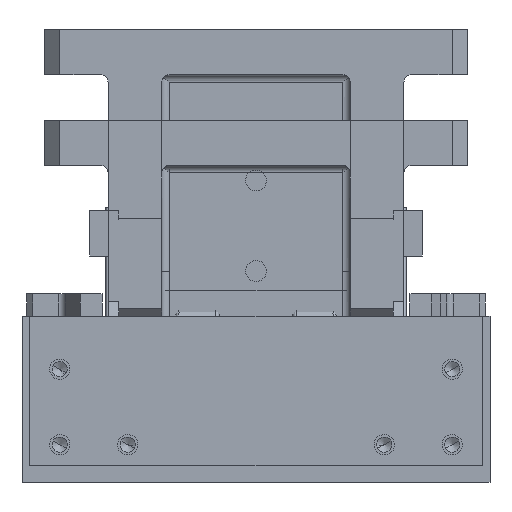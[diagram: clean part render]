
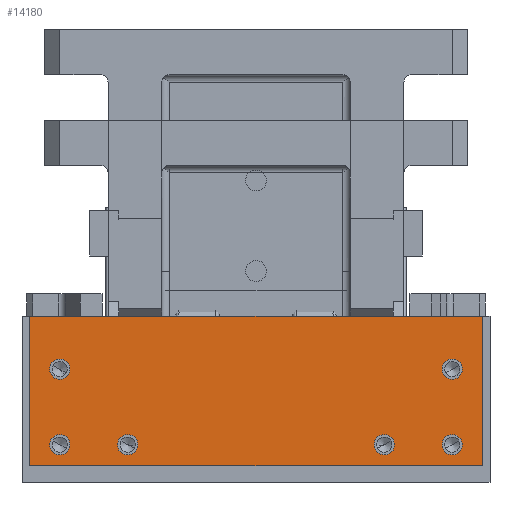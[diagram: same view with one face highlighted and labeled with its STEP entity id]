
A CAD part, left-side view. The second image highlights one B-rep face of the part: STEP entity #14180.
In plain terms, the highlighted planar face has unit normal (-1, 0, 0).
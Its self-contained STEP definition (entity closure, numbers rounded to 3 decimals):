
#12211=CARTESIAN_POINT('Vertex',(-12.,150.,110.)) ;
#12214=CARTESIAN_POINT('Line Origine',(-12.,0.,110.)) ;
#12218=CARTESIAN_POINT('Vertex',(-12.,-150.,110.)) ;
#14029=CARTESIAN_POINT('Vertex',(-12.,90.924,28.236)) ;
#14036=CARTESIAN_POINT('Vertex',(-12.,79.076,21.764)) ;
#14039=CARTESIAN_POINT('Axis2P3D Location',(-12.,85.,25.)) ;
#14051=CARTESIAN_POINT('Axis2P3D Location',(-12.,0.,0.)) ;
#14056=CARTESIAN_POINT('Line Origine',(-12.,150.,60.5)) ;
#14060=CARTESIAN_POINT('Vertex',(-12.,150.,11.)) ;
#14063=CARTESIAN_POINT('Line Origine',(-12.,0.,11.)) ;
#14067=CARTESIAN_POINT('Vertex',(-12.,-150.,11.)) ;
#14070=CARTESIAN_POINT('Line Origine',(-12.,-150.,60.5)) ;
#14081=CARTESIAN_POINT('Axis2P3D Location',(-12.,-130.,25.)) ;
#14085=CARTESIAN_POINT('Vertex',(-12.,-135.924,28.236)) ;
#14087=CARTESIAN_POINT('Vertex',(-12.,-124.076,21.764)) ;
#14090=CARTESIAN_POINT('Axis2P3D Location',(-12.,-130.,25.)) ;
#14099=CARTESIAN_POINT('Axis2P3D Location',(-12.,-130.,75.)) ;
#14103=CARTESIAN_POINT('Vertex',(-12.,-135.924,78.236)) ;
#14105=CARTESIAN_POINT('Vertex',(-12.,-124.076,71.764)) ;
#14108=CARTESIAN_POINT('Axis2P3D Location',(-12.,-130.,75.)) ;
#14117=CARTESIAN_POINT('Axis2P3D Location',(-12.,-85.,25.)) ;
#14121=CARTESIAN_POINT('Vertex',(-12.,-90.924,28.236)) ;
#14123=CARTESIAN_POINT('Vertex',(-12.,-79.076,21.764)) ;
#14126=CARTESIAN_POINT('Axis2P3D Location',(-12.,-85.,25.)) ;
#14135=CARTESIAN_POINT('Axis2P3D Location',(-12.,130.,25.)) ;
#14139=CARTESIAN_POINT('Vertex',(-12.,135.924,28.236)) ;
#14141=CARTESIAN_POINT('Vertex',(-12.,124.076,21.764)) ;
#14144=CARTESIAN_POINT('Axis2P3D Location',(-12.,130.,25.)) ;
#14153=CARTESIAN_POINT('Axis2P3D Location',(-12.,130.,75.)) ;
#14157=CARTESIAN_POINT('Vertex',(-12.,124.076,71.764)) ;
#14159=CARTESIAN_POINT('Vertex',(-12.,135.924,78.236)) ;
#14162=CARTESIAN_POINT('Axis2P3D Location',(-12.,130.,75.)) ;
#14171=CARTESIAN_POINT('Axis2P3D Location',(-12.,85.,25.)) ;
#12216=VECTOR('Line Direction',#12215,1.) ;
#14058=VECTOR('Line Direction',#14057,1.) ;
#14065=VECTOR('Line Direction',#14064,1.) ;
#14072=VECTOR('Line Direction',#14071,1.) ;
#12215=DIRECTION('Vector Direction',(0.,-1.,0.)) ;
#14040=DIRECTION('Axis2P3D Direction',(1.,0.,0.)) ;
#14052=DIRECTION('Axis2P3D Direction',(-1.,-0.,0.)) ;
#14053=DIRECTION('Axis2P3D XDirection',(0.,-1.,0.)) ;
#14057=DIRECTION('Vector Direction',(0.,0.,-1.)) ;
#14064=DIRECTION('Vector Direction',(0.,1.,0.)) ;
#14071=DIRECTION('Vector Direction',(0.,0.,-1.)) ;
#14082=DIRECTION('Axis2P3D Direction',(-1.,-0.,0.)) ;
#14091=DIRECTION('Axis2P3D Direction',(-1.,-0.,0.)) ;
#14100=DIRECTION('Axis2P3D Direction',(-1.,-0.,0.)) ;
#14109=DIRECTION('Axis2P3D Direction',(-1.,-0.,0.)) ;
#14118=DIRECTION('Axis2P3D Direction',(-1.,-0.,0.)) ;
#14127=DIRECTION('Axis2P3D Direction',(-1.,-0.,0.)) ;
#14136=DIRECTION('Axis2P3D Direction',(-1.,-0.,0.)) ;
#14145=DIRECTION('Axis2P3D Direction',(-1.,-0.,0.)) ;
#14154=DIRECTION('Axis2P3D Direction',(-1.,-0.,0.)) ;
#14163=DIRECTION('Axis2P3D Direction',(-1.,-0.,0.)) ;
#14172=DIRECTION('Axis2P3D Direction',(-1.,-0.,0.)) ;
#14041=AXIS2_PLACEMENT_3D('Circle Axis2P3D',#14039,#14040,$) ;
#14054=AXIS2_PLACEMENT_3D('Plane Axis2P3D',#14051,#14052,#14053) ;
#14083=AXIS2_PLACEMENT_3D('Circle Axis2P3D',#14081,#14082,$) ;
#14092=AXIS2_PLACEMENT_3D('Circle Axis2P3D',#14090,#14091,$) ;
#14101=AXIS2_PLACEMENT_3D('Circle Axis2P3D',#14099,#14100,$) ;
#14110=AXIS2_PLACEMENT_3D('Circle Axis2P3D',#14108,#14109,$) ;
#14119=AXIS2_PLACEMENT_3D('Circle Axis2P3D',#14117,#14118,$) ;
#14128=AXIS2_PLACEMENT_3D('Circle Axis2P3D',#14126,#14127,$) ;
#14137=AXIS2_PLACEMENT_3D('Circle Axis2P3D',#14135,#14136,$) ;
#14146=AXIS2_PLACEMENT_3D('Circle Axis2P3D',#14144,#14145,$) ;
#14155=AXIS2_PLACEMENT_3D('Circle Axis2P3D',#14153,#14154,$) ;
#14164=AXIS2_PLACEMENT_3D('Circle Axis2P3D',#14162,#14163,$) ;
#14173=AXIS2_PLACEMENT_3D('Circle Axis2P3D',#14171,#14172,$) ;
#12217=LINE('Line',#12214,#12216) ;
#14059=LINE('Line',#14056,#14058) ;
#14066=LINE('Line',#14063,#14065) ;
#14073=LINE('Line',#14070,#14072) ;
#14042=CIRCLE('generated circle',#14041,6.75) ;
#14084=CIRCLE('generated circle',#14083,6.75) ;
#14093=CIRCLE('generated circle',#14092,6.75) ;
#14102=CIRCLE('generated circle',#14101,6.75) ;
#14111=CIRCLE('generated circle',#14110,6.75) ;
#14120=CIRCLE('generated circle',#14119,6.75) ;
#14129=CIRCLE('generated circle',#14128,6.75) ;
#14138=CIRCLE('generated circle',#14137,6.75) ;
#14147=CIRCLE('generated circle',#14146,6.75) ;
#14156=CIRCLE('generated circle',#14155,6.75) ;
#14165=CIRCLE('generated circle',#14164,6.75) ;
#14174=CIRCLE('generated circle',#14173,6.75) ;
#14055=PLANE('',#14054) ;
#14098=FACE_BOUND('',#14095,.T.) ;
#14116=FACE_BOUND('',#14113,.T.) ;
#14134=FACE_BOUND('',#14131,.T.) ;
#14152=FACE_BOUND('',#14149,.T.) ;
#14170=FACE_BOUND('',#14167,.T.) ;
#14179=FACE_BOUND('',#14176,.T.) ;
#12220=EDGE_CURVE('',#12212,#12219,#12217,.T.) ;
#14043=EDGE_CURVE('',#14037,#14030,#14042,.F.) ;
#14062=EDGE_CURVE('',#12212,#14061,#14059,.T.) ;
#14069=EDGE_CURVE('',#14068,#14061,#14066,.T.) ;
#14074=EDGE_CURVE('',#12219,#14068,#14073,.T.) ;
#14089=EDGE_CURVE('',#14086,#14088,#14084,.F.) ;
#14094=EDGE_CURVE('',#14088,#14086,#14093,.F.) ;
#14107=EDGE_CURVE('',#14104,#14106,#14102,.F.) ;
#14112=EDGE_CURVE('',#14106,#14104,#14111,.F.) ;
#14125=EDGE_CURVE('',#14122,#14124,#14120,.F.) ;
#14130=EDGE_CURVE('',#14124,#14122,#14129,.F.) ;
#14143=EDGE_CURVE('',#14140,#14142,#14138,.T.) ;
#14148=EDGE_CURVE('',#14142,#14140,#14147,.T.) ;
#14161=EDGE_CURVE('',#14158,#14160,#14156,.T.) ;
#14166=EDGE_CURVE('',#14160,#14158,#14165,.T.) ;
#14175=EDGE_CURVE('',#14030,#14037,#14174,.T.) ;
#14075=EDGE_LOOP('',(#14076,#14077,#14078,#14079)) ;
#14095=EDGE_LOOP('',(#14096,#14097)) ;
#14113=EDGE_LOOP('',(#14114,#14115)) ;
#14131=EDGE_LOOP('',(#14132,#14133)) ;
#14149=EDGE_LOOP('',(#14150,#14151)) ;
#14167=EDGE_LOOP('',(#14168,#14169)) ;
#14176=EDGE_LOOP('',(#14177,#14178)) ;
#14076=ORIENTED_EDGE('',*,*,#14062,.T.) ;
#14077=ORIENTED_EDGE('',*,*,#14069,.F.) ;
#14078=ORIENTED_EDGE('',*,*,#14074,.F.) ;
#14079=ORIENTED_EDGE('',*,*,#12220,.F.) ;
#14096=ORIENTED_EDGE('',*,*,#14089,.T.) ;
#14097=ORIENTED_EDGE('',*,*,#14094,.T.) ;
#14114=ORIENTED_EDGE('',*,*,#14107,.T.) ;
#14115=ORIENTED_EDGE('',*,*,#14112,.T.) ;
#14132=ORIENTED_EDGE('',*,*,#14125,.T.) ;
#14133=ORIENTED_EDGE('',*,*,#14130,.T.) ;
#14150=ORIENTED_EDGE('',*,*,#14143,.F.) ;
#14151=ORIENTED_EDGE('',*,*,#14148,.F.) ;
#14168=ORIENTED_EDGE('',*,*,#14161,.F.) ;
#14169=ORIENTED_EDGE('',*,*,#14166,.F.) ;
#14177=ORIENTED_EDGE('',*,*,#14175,.F.) ;
#14178=ORIENTED_EDGE('',*,*,#14043,.F.) ;
#12212=VERTEX_POINT('',#12211) ;
#12219=VERTEX_POINT('',#12218) ;
#14030=VERTEX_POINT('',#14029) ;
#14037=VERTEX_POINT('',#14036) ;
#14061=VERTEX_POINT('',#14060) ;
#14068=VERTEX_POINT('',#14067) ;
#14086=VERTEX_POINT('',#14085) ;
#14088=VERTEX_POINT('',#14087) ;
#14104=VERTEX_POINT('',#14103) ;
#14106=VERTEX_POINT('',#14105) ;
#14122=VERTEX_POINT('',#14121) ;
#14124=VERTEX_POINT('',#14123) ;
#14140=VERTEX_POINT('',#14139) ;
#14142=VERTEX_POINT('',#14141) ;
#14158=VERTEX_POINT('',#14157) ;
#14160=VERTEX_POINT('',#14159) ;
#14180=ADVANCED_FACE('base',(#14080,#14098,#14116,#14134,#14152,#14170,#14179),#14055,.T.) ;
#14080=FACE_OUTER_BOUND('',#14075,.T.) ;
